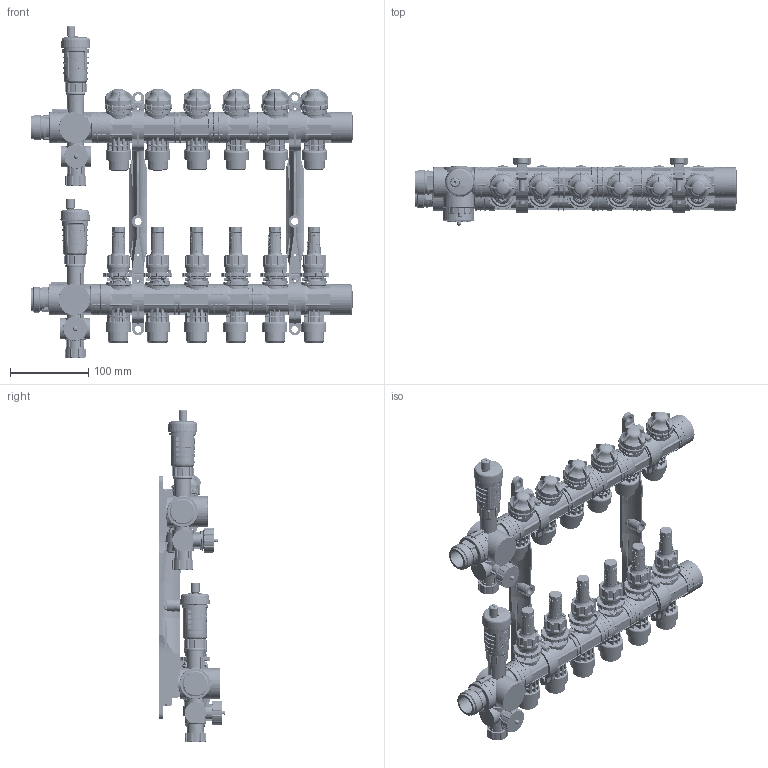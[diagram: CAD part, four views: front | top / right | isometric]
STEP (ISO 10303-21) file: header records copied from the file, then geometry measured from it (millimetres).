
FILE_DESCRIPTION (( 'STEP AP214' ), '1' );
FILE_NAME ('ProCalida_EF1_K_rozdzielacz poliamidowy_81366_0_3D_AFRISO.STEP', '2024-06-27T10:06:36', ( '' ), ( '' ), 'SwSTEP 2.0', 'SolidWorks 2022', '' );
FILE_SCHEMA (( 'AUTOMOTIVE_DESIGN' ));
Length unit declared in the file: millimetre
Products named in the file (46): 05 01 000937_Einlegegewindering G1a; 81469_dolny; nut_top_81469; Verteilersegment 3-fach_05 01 000173; nakretka_81469; DFM Universalver._05 01 00 49; Deckel Schnellentl_X_FCfter_05 00 280011; 80833; 81469; Anschlu_X_DFst_X_FCck_05 01 000182; Skala 1-6 l_min; ProCalida_EF1_K_rozdzielacz poliamidowy_81366_0_3D_AFRISO; Wentyl; SPINDEL-ZUSBAU; B_X_FCgel; Schraubkappe VG8_05 00 280001N; O-RING 14X2_801 000 0229; 05_01_000173-3-HK; HALTER; ProCalida_Termometr; Oben_mit Hubventilen_0; SCHRAUBKAPPE_05 01 000377; KONUS_05 05 030711_0_3; HANDRAD_05 01 000315; 81425; B_X_FCgel_2; Geh_X_E4use Schnell. Kst. G3_8_05 00 280030; EINSCHRAUBK_X_D6RPER_05 01 000276_0; belka; RING_05 01 000188 (xHK)_0_2; nut_bot_81469; Stellmutter M30x1,5 IG, blau_05 01 000352; Wandhalter Koppelverteiler_05 01 000290; Schnellentl_X_FCfter Kst. G3_8_05 00 16 04; nakretka_nad; rotametr; 05 01 000936_Absteckstutzen G1a; szklo; 1cz; termo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
Assembly tree (87 placements, depth 6):
  ProCalida_EF1_K_rozdzielacz poliamidowy_81366_0_3D_AFRISO
    belka  x2
      05_01_000173-3-HK
    rotametr  x6
      DFM Universalver._05 01 00 49
        SPINDEL-ZUSBAU
          SCHRAUBKAPPE_05 01 000377
            SCHRAUBKAPPE_05 01 000377
            Skala 1-6 l_min
        EINSCHRAUBK_X_D6RPER_05 01 000276_0
        HANDRAD_05 01 000315
        RING_05 01 000188 (xHK)_0_2
    konus  x2
      Verteilersegment 3-fach_05 01 000173
        KONUS_05 05 030711_0_3
    Wentyl  x6
    nakretka_nad  x6
      Koppelverteiler_Baugruppe
        Oben_mit Hubventilen_0
          Stellmutter M30x1,5 IG, blau_05 01 000352
    KONUS_05 05 030711_0_3  x10
    81425  x2
    81469
      part1
      Anschlu_X_DFst_X_FCck_05 01 000182
      ProCalida_Termometr
        termo
        szklo
      nakretka_81469
      nut_bot_81469
      nut_top_81469
    Wandhalter Koppelverteiler_05 01 000290  x2
      B_X_FCgel
      B_X_FCgel_2
      HALTER
    05 01 000323_Anschlussst_X_FCck ProCalida EFx1 AG  x2
      05 01 000937_Einlegegewindering G1a
      05 01 000936_Absteckstutzen G1a
    81469_dolny
      part1
      Anschlu_X_DFst_X_FCck_05 01 000182
      ProCalida_Termometr
        termo
        szklo
      nakretka_81469
      nut_bot_81469
      nut_top_81469
    80833  x2
      Schnellentl_X_FCfter Kst. G3_8_05 00 16 04
        Schraubkappe VG8_05 00 280001N
        O-RING 14X2_801 000 0229
        Deckel Schnellentl_X_FCfter_05 00 280011
        Rastring_05 00 280007
        Geh_X_E4use Schnell. Kst. G3_8_05 00 280030
    1cz  x6
Bounding box: 412.64 x 85.55 x 424.24 mm (x, y, z)
Volume: 970703.9 mm3; surface area: 813019.3 mm2
Topology: 640 solids, 652 shells, 50940 faces, 125208 edges, 76064 vertices
Faces by surface type: plane 33132, cylinder 8782, bspline 4680, cone 2700, torus 1544, sphere 102
Entity records: 769640 total; most frequent: CARTESIAN_POINT 323971, ORIENTED_EDGE 69095, DIRECTION 54485, EDGE_CURVE 34598, VERTEX_POINT 20872, AXIS2_PLACEMENT_3D 18575, LINE 17335, VECTOR 17335
